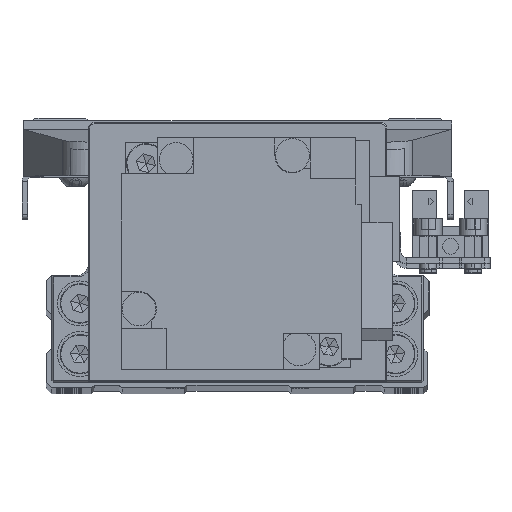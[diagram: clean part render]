
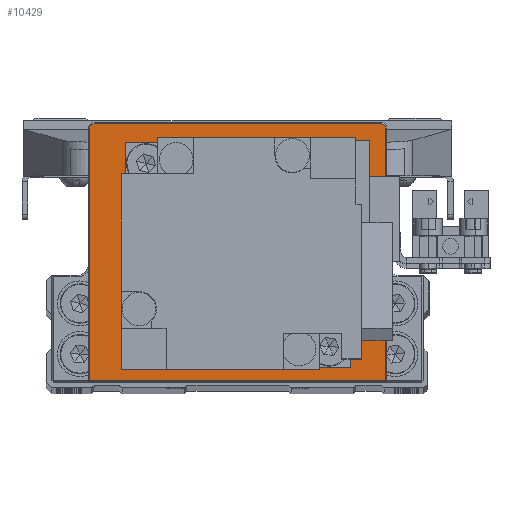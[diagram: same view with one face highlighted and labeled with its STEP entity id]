
A CAD part, top view. The second image highlights one B-rep face of the part: STEP entity #10429.
In plain terms, the highlighted planar face has unit normal (0, 0, 1) as drawn and (0, -1, 0) by its records, which use the part's own axes.
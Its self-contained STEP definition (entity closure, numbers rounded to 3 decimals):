
#453 = AXIS2_PLACEMENT_3D ( 'NONE', #19799, #32001, #4505 ) ;
#991 = CARTESIAN_POINT ( 'NONE',  ( 26.3, -4., 22. ) ) ;
#3650 = DIRECTION ( 'NONE',  ( 0., 0., -1. ) ) ;
#4074 = VECTOR ( 'NONE', #35047, 1000. ) ;
#4505 = DIRECTION ( 'NONE',  ( 0., 0., -1. ) ) ;
#5398 = LINE ( 'NONE', #17659, #6561 ) ;
#5725 = DIRECTION ( 'NONE',  ( 0., -1., 0. ) ) ;
#6480 = EDGE_CURVE ( 'NONE', #13207, #19804, #17796, .T. ) ;
#6561 = VECTOR ( 'NONE', #29882, 1000. ) ;
#6928 = AXIS2_PLACEMENT_3D ( 'NONE', #33207, #5725, #17978 ) ;
#7259 = EDGE_CURVE ( 'NONE', #20633, #37482, #5398, .T. ) ;
#8444 = AXIS2_PLACEMENT_3D ( 'NONE', #8700, #20942, #33164 ) ;
#8700 = CARTESIAN_POINT ( 'NONE',  ( 25.5, -4., 22. ) ) ;
#8737 = FACE_OUTER_BOUND ( 'NONE', #36689, .T. ) ;
#9675 = ORIENTED_EDGE ( 'NONE', *, *, #34645, .T. ) ;
#10429 = ADVANCED_FACE ( 'NONE', ( #8737 ), #20976, .T. ) ;
#10608 = LINE ( 'NONE', #22840, #4074 ) ;
#10681 = VERTEX_POINT ( 'NONE', #991 ) ;
#11613 = DIRECTION ( 'NONE',  ( 0., 0., 1. ) ) ;
#11978 = CARTESIAN_POINT ( 'NONE',  ( 26.3, -4., -22.8 ) ) ;
#12385 = EDGE_CURVE ( 'NONE', #34854, #13207, #10608, .T. ) ;
#13207 = VERTEX_POINT ( 'NONE', #25161 ) ;
#15536 = ORIENTED_EDGE ( 'NONE', *, *, #6480, .T. ) ;
#17659 = CARTESIAN_POINT ( 'NONE',  ( 26.5, -4., -22.8 ) ) ;
#17796 = CIRCLE ( 'NONE', #453, 0.8 ) ;
#17978 = DIRECTION ( 'NONE',  ( 0., 0., -1. ) ) ;
#18939 = LINE ( 'NONE', #31158, #30319 ) ;
#19305 = EDGE_CURVE ( 'NONE', #37482, #10681, #26853, .T. ) ;
#19799 = CARTESIAN_POINT ( 'NONE',  ( -25.5, -4., 22. ) ) ;
#19804 = VERTEX_POINT ( 'NONE', #36977 ) ;
#20633 = VERTEX_POINT ( 'NONE', #37038 ) ;
#20942 = DIRECTION ( 'NONE',  ( 0., -1., 0. ) ) ;
#20976 = PLANE ( 'NONE',  #6928 ) ;
#22840 = CARTESIAN_POINT ( 'NONE',  ( -25.5, -4., 22.8 ) ) ;
#23831 = VECTOR ( 'NONE', #11613, 1000. ) ;
#24107 = CARTESIAN_POINT ( 'NONE',  ( 25.5, -4., 22.8 ) ) ;
#25161 = CARTESIAN_POINT ( 'NONE',  ( -25.5, -4., 22.8 ) ) ;
#25244 = ORIENTED_EDGE ( 'NONE', *, *, #12385, .T. ) ;
#25742 = CIRCLE ( 'NONE', #8444, 0.8 ) ;
#26853 = LINE ( 'NONE', #39034, #23831 ) ;
#28228 = ORIENTED_EDGE ( 'NONE', *, *, #7259, .T. ) ;
#29882 = DIRECTION ( 'NONE',  ( 1., 0., 0. ) ) ;
#30319 = VECTOR ( 'NONE', #3650, 1000. ) ;
#30348 = ORIENTED_EDGE ( 'NONE', *, *, #19305, .T. ) ;
#31158 = CARTESIAN_POINT ( 'NONE',  ( -26.3, -4., -23. ) ) ;
#32001 = DIRECTION ( 'NONE',  ( 0., -1., 0. ) ) ;
#33164 = DIRECTION ( 'NONE',  ( 0., 0., -1. ) ) ;
#33207 = CARTESIAN_POINT ( 'NONE',  ( 0., -4., 0. ) ) ;
#33519 = EDGE_CURVE ( 'NONE', #10681, #34854, #25742, .T. ) ;
#33703 = ORIENTED_EDGE ( 'NONE', *, *, #33519, .T. ) ;
#34645 = EDGE_CURVE ( 'NONE', #19804, #20633, #18939, .T. ) ;
#34854 = VERTEX_POINT ( 'NONE', #24107 ) ;
#35047 = DIRECTION ( 'NONE',  ( -1., 0., 0. ) ) ;
#36689 = EDGE_LOOP ( 'NONE', ( #28228, #30348, #33703, #25244, #15536, #9675 ) ) ;
#36977 = CARTESIAN_POINT ( 'NONE',  ( -26.3, -4., 22. ) ) ;
#37038 = CARTESIAN_POINT ( 'NONE',  ( -26.3, -4., -22.8 ) ) ;
#37482 = VERTEX_POINT ( 'NONE', #11978 ) ;
#39034 = CARTESIAN_POINT ( 'NONE',  ( 26.3, -4., 22. ) ) ;
